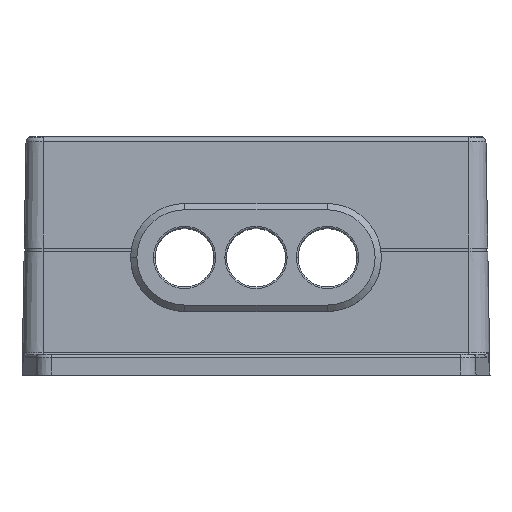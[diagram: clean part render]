
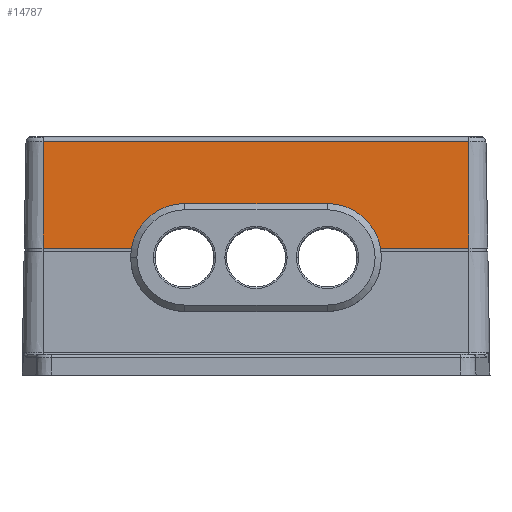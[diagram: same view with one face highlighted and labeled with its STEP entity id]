
A CAD part, front view. The second image highlights one B-rep face of the part: STEP entity #14787.
In plain terms, the highlighted planar face has unit normal (0, -1, 0.018).
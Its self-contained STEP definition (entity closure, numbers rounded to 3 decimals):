
#231 = CARTESIAN_POINT ( 'NONE',  ( -92397.639, -46750.562, 12.789 ) ) ;
#2121 = B_SPLINE_CURVE_WITH_KNOTS ( 'NONE', 3,
 ( #231, #40315, #14160, #40529 ),
 .UNSPECIFIED., .F., .F.,
 ( 4, 4 ),
 ( 0., 1. ),
 .UNSPECIFIED. ) ;
#3344 = AXIS2_PLACEMENT_3D ( 'NONE', #40619, #33136, #43262 ) ;
#4634 = B_SPLINE_CURVE_WITH_KNOTS ( 'NONE', 3,
 ( #36417, #40585, #13132, #43438 ),
 .UNSPECIFIED., .F., .F.,
 ( 4, 4 ),
 ( 0.407, 0.425 ),
 .UNSPECIFIED. ) ;
#5114 = DIRECTION ( 'NONE',  ( 0., -1., 0.017 ) ) ;
#5155 = VERTEX_POINT ( 'NONE', #38091 ) ;
#5163 = CARTESIAN_POINT ( 'NONE',  ( -92308.306, -46750.562, 12.789 ) ) ;
#5564 = CARTESIAN_POINT ( 'NONE',  ( -92397.639, -46751.147, -20.737 ) ) ;
#5813 = DIRECTION ( 'NONE',  ( 0., -0.017, -1. ) ) ;
#5886 = CARTESIAN_POINT ( 'NONE',  ( -92275.12, -46751.147, -20.737 ) ) ;
#8222 = CARTESIAN_POINT ( 'NONE',  ( -92363.197, -46751.147, -20.737 ) ) ;
#8539 = EDGE_CURVE ( 'NONE', #28598, #41617, #33717, .T. ) ;
#9372 = CIRCLE ( 'NONE', #35581, 10.5 ) ;
#9643 = CIRCLE ( 'NONE', #37965, 10.5 ) ;
#10536 = EDGE_CURVE ( 'NONE', #28163, #14356, #27471, .T. ) ;
#10931 = EDGE_CURVE ( 'NONE', #5155, #39284, #37973, .T. ) ;
#11090 = CARTESIAN_POINT ( 'NONE',  ( -92263.639, -46750.952, -9.562 ) ) ;
#11997 = CARTESIAN_POINT ( 'NONE',  ( -92386.159, -46751.147, -20.737 ) ) ;
#12548 = CARTESIAN_POINT ( 'NONE',  ( -92286.6, -46751.147, -20.737 ) ) ;
#12629 = EDGE_CURVE ( 'NONE', #28598, #32742, #29335, .T. ) ;
#13132 = CARTESIAN_POINT ( 'NONE',  ( -92341.492, -46751.147, -20.737 ) ) ;
#14160 = CARTESIAN_POINT ( 'NONE',  ( -92397.639, -46750.952, -9.562 ) ) ;
#14356 = VERTEX_POINT ( 'NONE', #43104 ) ;
#14573 = CARTESIAN_POINT ( 'NONE',  ( -92353.139, -46751.2, -23.75 ) ) ;
#14787 = ADVANCED_FACE ( 'NONE', ( #29816 ), #36882, .T. ) ;
#14817 = CARTESIAN_POINT ( 'NONE',  ( -92263.639, -46750.757, 1.613 ) ) ;
#14907 = CARTESIAN_POINT ( 'NONE',  ( -92263.639, -46750.562, 12.789 ) ) ;
#15066 = VERTEX_POINT ( 'NONE', #33296 ) ;
#15579 = ORIENTED_EDGE ( 'NONE', *, *, #10536, .T. ) ;
#17660 = ORIENTED_EDGE ( 'NONE', *, *, #18454, .F. ) ;
#17771 = VERTEX_POINT ( 'NONE', #28322 ) ;
#18262 = CARTESIAN_POINT ( 'NONE',  ( -92352.972, -46750.562, 12.789 ) ) ;
#18288 = CARTESIAN_POINT ( 'NONE',  ( -92319.786, -46751.147, -20.737 ) ) ;
#18454 = EDGE_CURVE ( 'NONE', #39359, #14356, #9372, .T. ) ;
#18694 = CARTESIAN_POINT ( 'NONE',  ( -92397.639, -46750.562, 12.789 ) ) ;
#19283 = EDGE_CURVE ( 'NONE', #17771, #28163, #2121, .T. ) ;
#19403 = CARTESIAN_POINT ( 'NONE',  ( -92263.639, -46751.147, -20.737 ) ) ;
#20747 = ORIENTED_EDGE ( 'NONE', *, *, #8539, .F. ) ;
#24509 = CARTESIAN_POINT ( 'NONE',  ( -92318.197, -46751.147, -20.737 ) ) ;
#25480 = CARTESIAN_POINT ( 'NONE',  ( -92263.639, -46751.147, -20.737 ) ) ;
#25843 = CARTESIAN_POINT ( 'NONE',  ( -92298.081, -46751.147, -20.737 ) ) ;
#26861 = B_SPLINE_CURVE_WITH_KNOTS ( 'NONE', 3,
 ( #25843, #12548, #5886, #19403 ),
 .UNSPECIFIED., .F., .F.,
 ( 4, 4 ),
 ( 0.743, 1. ),
 .UNSPECIFIED. ) ;
#27177 = ORIENTED_EDGE ( 'NONE', *, *, #34154, .F. ) ;
#27471 = B_SPLINE_CURVE_WITH_KNOTS ( 'NONE', 3,
 ( #41872, #11997, #34852, #8222 ),
 .UNSPECIFIED., .F., .F.,
 ( 4, 4 ),
 ( 0., 0.257 ),
 .UNSPECIFIED. ) ;
#28163 = VERTEX_POINT ( 'NONE', #5564 ) ;
#28322 = CARTESIAN_POINT ( 'NONE',  ( -92397.639, -46750.562, 12.789 ) ) ;
#28377 = EDGE_CURVE ( 'NONE', #15066, #5155, #26861, .T. ) ;
#28598 = VERTEX_POINT ( 'NONE', #38011 ) ;
#29335 = B_SPLINE_CURVE_WITH_KNOTS ( 'NONE', 3,
 ( #41304, #18288, #37809, #24509 ),
 .UNSPECIFIED., .F., .F.,
 ( 4, 4 ),
 ( 0.575, 0.593 ),
 .UNSPECIFIED. ) ;
#29371 = CARTESIAN_POINT ( 'NONE',  ( -92343.081, -46751.147, -20.737 ) ) ;
#29622 = ORIENTED_EDGE ( 'NONE', *, *, #19283, .T. ) ;
#29816 = FACE_OUTER_BOUND ( 'NONE', #32056, .T. ) ;
#30883 = AXIS2_PLACEMENT_3D ( 'NONE', #35071, #5114, #38381 ) ;
#30888 = ORIENTED_EDGE ( 'NONE', *, *, #28377, .T. ) ;
#32056 = EDGE_LOOP ( 'NONE', ( #17660, #43503, #20747, #38522, #38159, #30888, #33273, #27177, #29622, #15579 ) ) ;
#32653 = DIRECTION ( 'NONE',  ( 0., -1., 0.017 ) ) ;
#32705 = DIRECTION ( 'NONE',  ( 0., -0.017, -1. ) ) ;
#32742 = VERTEX_POINT ( 'NONE', #34580 ) ;
#33136 = DIRECTION ( 'NONE',  ( 0., -1., 0.017 ) ) ;
#33200 = EDGE_CURVE ( 'NONE', #39359, #41617, #4634, .T. ) ;
#33273 = ORIENTED_EDGE ( 'NONE', *, *, #10931, .T. ) ;
#33296 = CARTESIAN_POINT ( 'NONE',  ( -92298.081, -46751.147, -20.737 ) ) ;
#33717 = CIRCLE ( 'NONE', #30883, 10.5 ) ;
#34154 = EDGE_CURVE ( 'NONE', #17771, #39284, #42080, .T. ) ;
#34580 = CARTESIAN_POINT ( 'NONE',  ( -92318.197, -46751.147, -20.737 ) ) ;
#34852 = CARTESIAN_POINT ( 'NONE',  ( -92374.678, -46751.147, -20.737 ) ) ;
#35071 = CARTESIAN_POINT ( 'NONE',  ( -92330.639, -46751.2, -23.75 ) ) ;
#35246 = CARTESIAN_POINT ( 'NONE',  ( -92263.639, -46750.562, 12.789 ) ) ;
#35581 = AXIS2_PLACEMENT_3D ( 'NONE', #14573, #36034, #32705 ) ;
#35751 = CARTESIAN_POINT ( 'NONE',  ( -92308.139, -46751.2, -23.75 ) ) ;
#36034 = DIRECTION ( 'NONE',  ( 0., -1., 0.017 ) ) ;
#36417 = CARTESIAN_POINT ( 'NONE',  ( -92343.081, -46751.147, -20.737 ) ) ;
#36882 = PLANE ( 'NONE',  #3344 ) ;
#37409 = EDGE_CURVE ( 'NONE', #15066, #32742, #9643, .T. ) ;
#37809 = CARTESIAN_POINT ( 'NONE',  ( -92318.992, -46751.147, -20.737 ) ) ;
#37965 = AXIS2_PLACEMENT_3D ( 'NONE', #35751, #32653, #5813 ) ;
#37973 = B_SPLINE_CURVE_WITH_KNOTS ( 'NONE', 3,
 ( #25480, #11090, #14817, #35246 ),
 .UNSPECIFIED., .F., .F.,
 ( 4, 4 ),
 ( 0., 1. ),
 .UNSPECIFIED. ) ;
#38011 = CARTESIAN_POINT ( 'NONE',  ( -92320.581, -46751.147, -20.737 ) ) ;
#38091 = CARTESIAN_POINT ( 'NONE',  ( -92263.639, -46751.147, -20.737 ) ) ;
#38159 = ORIENTED_EDGE ( 'NONE', *, *, #37409, .F. ) ;
#38381 = DIRECTION ( 'NONE',  ( 0., -0.017, -1. ) ) ;
#38522 = ORIENTED_EDGE ( 'NONE', *, *, #12629, .T. ) ;
#39284 = VERTEX_POINT ( 'NONE', #42171 ) ;
#39359 = VERTEX_POINT ( 'NONE', #29371 ) ;
#40315 = CARTESIAN_POINT ( 'NONE',  ( -92397.639, -46750.757, 1.613 ) ) ;
#40529 = CARTESIAN_POINT ( 'NONE',  ( -92397.639, -46751.147, -20.737 ) ) ;
#40585 = CARTESIAN_POINT ( 'NONE',  ( -92342.286, -46751.147, -20.737 ) ) ;
#40619 = CARTESIAN_POINT ( 'NONE',  ( -92330.639, -46751.147, -20.737 ) ) ;
#41304 = CARTESIAN_POINT ( 'NONE',  ( -92320.581, -46751.147, -20.737 ) ) ;
#41617 = VERTEX_POINT ( 'NONE', #43113 ) ;
#41872 = CARTESIAN_POINT ( 'NONE',  ( -92397.639, -46751.147, -20.737 ) ) ;
#42080 = B_SPLINE_CURVE_WITH_KNOTS ( 'NONE', 3,
 ( #18694, #18262, #5163, #14907 ),
 .UNSPECIFIED., .F., .F.,
 ( 4, 4 ),
 ( 0., 1. ),
 .UNSPECIFIED. ) ;
#42171 = CARTESIAN_POINT ( 'NONE',  ( -92263.639, -46750.562, 12.789 ) ) ;
#43104 = CARTESIAN_POINT ( 'NONE',  ( -92363.197, -46751.147, -20.737 ) ) ;
#43113 = CARTESIAN_POINT ( 'NONE',  ( -92340.697, -46751.147, -20.737 ) ) ;
#43262 = DIRECTION ( 'NONE',  ( -1., 0., 0. ) ) ;
#43438 = CARTESIAN_POINT ( 'NONE',  ( -92340.697, -46751.147, -20.737 ) ) ;
#43503 = ORIENTED_EDGE ( 'NONE', *, *, #33200, .T. ) ;
